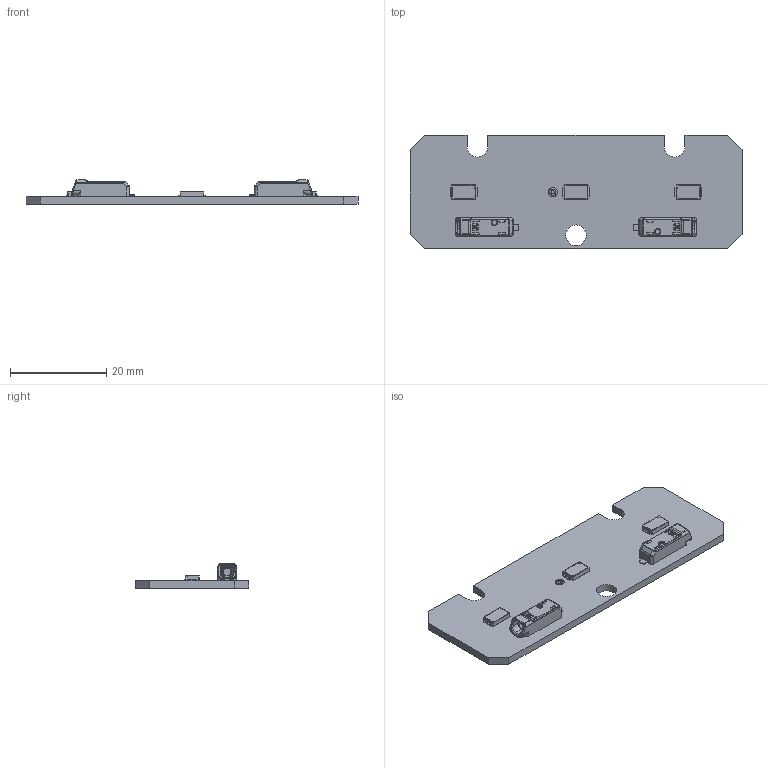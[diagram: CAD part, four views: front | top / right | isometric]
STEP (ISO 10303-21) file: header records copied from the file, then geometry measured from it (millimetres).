
FILE_DESCRIPTION (( 'STEP AP214' ), '1' );
FILE_NAME ('16207822_lle-g4-70-160lm-adv.STEP', '2017-09-14T09:00:52', ( 'Zumtobel' ), ( 'Zumtobel' ), 'SwSTEP 2.0', 'SolidWorks 2014', '' );
FILE_SCHEMA (( 'AUTOMOTIVE_DESIGN' ));
Length unit declared in the file: millimetre
Products named in the file (11): 0001255765; 16207822_lle-g4-70-160lm-adv; S240(A)_Modul; ET_MICROCON-SMD-1POL-; LED2; LED3; Board; ASSEMBLY; S240(A)_Platine; LED1; LED-LG5630
Assembly tree (13 placements, depth 5):
  16207822_lle-g4-70-160lm-adv
    S240(A)_Modul
      LED1
        LED-LG5630
          0001255765
      Board
        ASSEMBLY
          S240(A)_Platine
      LED3
        LED-LG5630
          0001255765
      LED2
        LED-LG5630
          0001255765
      ET_MICROCON-SMD-1POL-  x2
Bounding box: 69 x 23.6 x 5.1 mm (x, y, z)
Volume: 2859.4 mm3; surface area: 4032.2 mm2
Topology: 6 solids, 6 shells, 666 faces, 1690 edges, 1048 vertices
Faces by surface type: plane 298, cylinder 184, bspline 148, cone 36
Entity records: 15943 total; most frequent: CARTESIAN_POINT 5447, ORIENTED_EDGE 1632, DIRECTION 1177, EDGE_CURVE 816, VERTEX_POINT 508, LINE 417, VECTOR 417, AXIS2_PLACEMENT_3D 380
